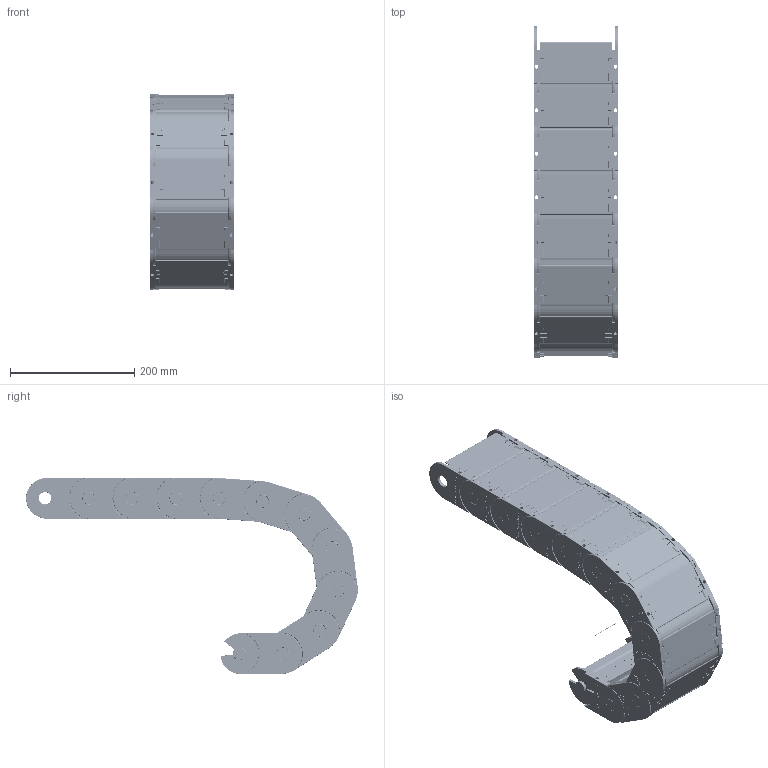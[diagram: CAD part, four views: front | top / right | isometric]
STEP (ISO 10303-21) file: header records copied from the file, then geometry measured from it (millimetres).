
FILE_DESCRIPTION((''),'2;1');
FILE_NAME('C:\Uebbing\PARAMETERKETTEN\KOLIBRI\Kol_65_135_5\Kol_65_135_5_R125.stp','2012-03-06T09:07:46',('Uebbing'),(''),'Autodesk Inventor 10','Autodesk Inventor 10','');
FILE_SCHEMA(('AUTOMOTIVE_DESIGN { 1 0 10303 214 1 1 1 1 }'));
Length unit declared in the file: millimetre
Products named in the file (5): KOLIBRI 65_135_5_PARAMETRISCH; Achse; Kol_65_135_5; Kol_65_135_5 Lasche; Kol_65_135_5 Klappdeckel
Assembly tree (14 placements, depth 3):
  KOLIBRI 65_135_5_PARAMETRISCH
    Achse
    Kol_65_135_5  x11
      Kol_65_135_5 Lasche
      Kol_65_135_5 Klappdeckel
Bounding box: 135 x 533.6 x 315 mm (x, y, z)
Volume: 1298255.7 mm3; surface area: 889885.6 mm2
Topology: 23 solids, 23 shells, 7043 faces, 19188 edges, 12268 vertices
Faces by surface type: plane 2829, bspline 2673, cylinder 1244, torus 231, cone 44, sphere 22
Full cylindrical faces by diameter (mm): 1 x1, 2.514 x11, 4 x33, 4.414 x11, 6 x11, 20 x22
Entity records: 21860 total; most frequent: CARTESIAN_POINT 6107, ORIENTED_EDGE 3422, DIRECTION 2941, EDGE_CURVE 1711, VECTOR 1239, LINE 1239, VERTEX_POINT 1106, AXIS2_PLACEMENT_3D 851
